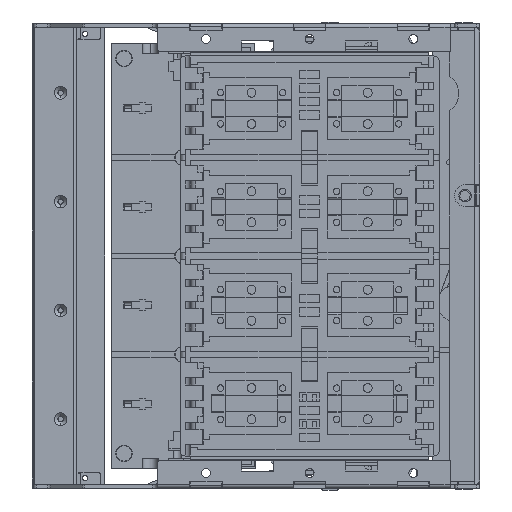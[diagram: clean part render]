
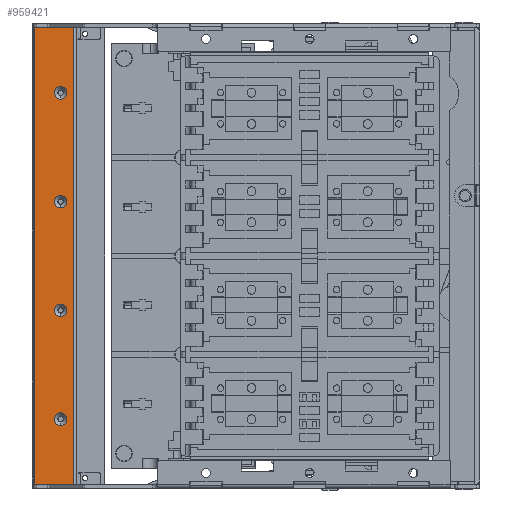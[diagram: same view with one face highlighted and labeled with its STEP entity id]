
A CAD part, left-side view. The second image highlights one B-rep face of the part: STEP entity #959421.
In plain terms, the highlighted planar face has unit normal (-1, 0, 0).
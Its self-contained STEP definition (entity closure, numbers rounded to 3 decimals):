
#954611=CARTESIAN_POINT(' ',(294.756,616.613,269.188));
#954612=VERTEX_POINT(' ',#954611);
#954626=CARTESIAN_POINT(' ',(294.756,616.613,269.188));
#954631=DIRECTION(' ',(0.,-1.,0.));
#954636=VECTOR(' ',#954631,1.);
#954641=LINE('',#954626,#954636);
#954646=CARTESIAN_POINT(' ',(294.756,579.413,269.188));
#954647=VERTEX_POINT(' ',#954646);
#954651=EDGE_CURVE(' ',#954612,#954647,#954641,.T.);
#955686=CARTESIAN_POINT(' ',(294.756,579.413,-172.412));
#955687=VERTEX_POINT(' ',#955686);
#955701=CARTESIAN_POINT(' ',(294.756,616.613,-172.412));
#955706=DIRECTION(' ',(0.,-1.,0.));
#955711=VECTOR(' ',#955706,1.);
#955716=LINE('',#955701,#955711);
#955721=CARTESIAN_POINT(' ',(294.756,616.613,-172.412));
#955722=VERTEX_POINT(' ',#955721);
#955726=EDGE_CURVE(' ',#955722,#955687,#955716,.T.);
#958826=CARTESIAN_POINT(' ',(294.756,616.613,269.188));
#958831=DIRECTION(' ',(0.,0.,-1.));
#958836=VECTOR(' ',#958831,1.);
#958841=LINE('',#958826,#958836);
#958846=EDGE_CURVE(' ',#954612,#955722,#958841,.T.);
#958981=DIRECTION(' ',(-1.,-0.,-0.));
#958986=CARTESIAN_POINT(' ',(294.756,579.413,-172.412));
#958991=DIRECTION(' ',(0.,0.,1.));
#958996=AXIS2_PLACEMENT_3D(' ',#958986,#958981,#958991);
#959001=PLANE('',#958996);
#959006=ORIENTED_EDGE(' ',*,*,#954651,.F.);
#959011=ORIENTED_EDGE(' ',*,*,#958846,.T.);
#959016=ORIENTED_EDGE(' ',*,*,#955726,.T.);
#959021=CARTESIAN_POINT(' ',(294.756,579.413,-172.412));
#959026=DIRECTION(' ',(0.,0.,1.));
#959031=VECTOR(' ',#959026,1.);
#959036=LINE('',#959021,#959031);
#959041=EDGE_CURVE(' ',#955687,#954647,#959036,.T.);
#959046=ORIENTED_EDGE(' ',*,*,#959041,.T.);
#959051=EDGE_LOOP(' ',(#959006,#959011,#959016,#959046));
#959056=FACE_OUTER_BOUND(' ',#959051,.T.);
#959061=CARTESIAN_POINT(' ',(294.756,591.613,-4.112));
#959066=DIRECTION(' ',(1.,0.,0.));
#959071=DIRECTION(' ',(0.,0.,1.));
#959076=AXIS2_PLACEMENT_3D(' ',#959061,#959066,#959071);
#959081=CIRCLE('',#959076,6.1);
#959086=CARTESIAN_POINT(' ',(294.756,591.613,1.988));
#959087=VERTEX_POINT(' ',#959086);
#959091=CARTESIAN_POINT(' ',(294.756,591.613,-10.212));
#959092=VERTEX_POINT(' ',#959091);
#959096=EDGE_CURVE(' ',#959087,#959092,#959081,.T.);
#959101=ORIENTED_EDGE(' ',*,*,#959096,.T.);
#959106=CARTESIAN_POINT(' ',(294.756,591.613,-4.112));
#959111=DIRECTION(' ',(1.,0.,0.));
#959116=DIRECTION(' ',(0.,0.,-1.));
#959121=AXIS2_PLACEMENT_3D(' ',#959106,#959111,#959116);
#959126=CIRCLE('',#959121,6.1);
#959131=EDGE_CURVE(' ',#959092,#959087,#959126,.T.);
#959136=ORIENTED_EDGE(' ',*,*,#959131,.T.);
#959141=EDGE_LOOP(' ',(#959101,#959136));
#959146=FACE_BOUND(' ',#959141,.T.);
#959151=CARTESIAN_POINT(' ',(294.756,591.613,100.888));
#959156=DIRECTION(' ',(1.,0.,0.));
#959161=DIRECTION(' ',(0.,0.,1.));
#959166=AXIS2_PLACEMENT_3D(' ',#959151,#959156,#959161);
#959171=CIRCLE('',#959166,6.1);
#959176=CARTESIAN_POINT(' ',(294.756,591.613,106.988));
#959177=VERTEX_POINT(' ',#959176);
#959181=CARTESIAN_POINT(' ',(294.756,591.613,94.788));
#959182=VERTEX_POINT(' ',#959181);
#959186=EDGE_CURVE(' ',#959177,#959182,#959171,.T.);
#959191=ORIENTED_EDGE(' ',*,*,#959186,.T.);
#959196=CARTESIAN_POINT(' ',(294.756,591.613,100.888));
#959201=DIRECTION(' ',(1.,0.,0.));
#959206=DIRECTION(' ',(0.,0.,-1.));
#959211=AXIS2_PLACEMENT_3D(' ',#959196,#959201,#959206);
#959216=CIRCLE('',#959211,6.1);
#959221=EDGE_CURVE(' ',#959182,#959177,#959216,.T.);
#959226=ORIENTED_EDGE(' ',*,*,#959221,.T.);
#959231=EDGE_LOOP(' ',(#959191,#959226));
#959236=FACE_BOUND(' ',#959231,.T.);
#959241=CARTESIAN_POINT(' ',(294.756,591.613,205.888));
#959246=DIRECTION(' ',(1.,0.,0.));
#959251=DIRECTION(' ',(0.,0.,1.));
#959256=AXIS2_PLACEMENT_3D(' ',#959241,#959246,#959251);
#959261=CIRCLE('',#959256,6.1);
#959266=CARTESIAN_POINT(' ',(294.756,591.613,211.988));
#959267=VERTEX_POINT(' ',#959266);
#959271=CARTESIAN_POINT(' ',(294.756,591.613,199.788));
#959272=VERTEX_POINT(' ',#959271);
#959276=EDGE_CURVE(' ',#959267,#959272,#959261,.T.);
#959281=ORIENTED_EDGE(' ',*,*,#959276,.T.);
#959286=CARTESIAN_POINT(' ',(294.756,591.613,205.888));
#959291=DIRECTION(' ',(1.,0.,0.));
#959296=DIRECTION(' ',(0.,0.,-1.));
#959301=AXIS2_PLACEMENT_3D(' ',#959286,#959291,#959296);
#959306=CIRCLE('',#959301,6.1);
#959311=EDGE_CURVE(' ',#959272,#959267,#959306,.T.);
#959316=ORIENTED_EDGE(' ',*,*,#959311,.T.);
#959321=EDGE_LOOP(' ',(#959281,#959316));
#959326=FACE_BOUND(' ',#959321,.T.);
#959331=CARTESIAN_POINT(' ',(294.756,591.613,-109.112));
#959336=DIRECTION(' ',(1.,0.,0.));
#959341=DIRECTION(' ',(0.,0.,1.));
#959346=AXIS2_PLACEMENT_3D(' ',#959331,#959336,#959341);
#959351=CIRCLE('',#959346,6.1);
#959356=CARTESIAN_POINT(' ',(294.756,591.613,-103.012));
#959357=VERTEX_POINT(' ',#959356);
#959361=CARTESIAN_POINT(' ',(294.756,591.613,-115.212));
#959362=VERTEX_POINT(' ',#959361);
#959366=EDGE_CURVE(' ',#959357,#959362,#959351,.T.);
#959371=ORIENTED_EDGE(' ',*,*,#959366,.T.);
#959376=CARTESIAN_POINT(' ',(294.756,591.613,-109.112));
#959381=DIRECTION(' ',(1.,0.,0.));
#959386=DIRECTION(' ',(0.,0.,-1.));
#959391=AXIS2_PLACEMENT_3D(' ',#959376,#959381,#959386);
#959396=CIRCLE('',#959391,6.1);
#959401=EDGE_CURVE(' ',#959362,#959357,#959396,.T.);
#959406=ORIENTED_EDGE(' ',*,*,#959401,.T.);
#959411=EDGE_LOOP(' ',(#959371,#959406));
#959416=FACE_BOUND(' ',#959411,.T.);
#959421=ADVANCED_FACE('NONE',(#959056,#959146,#959236,#959326,#959416),#959001,.T.);
